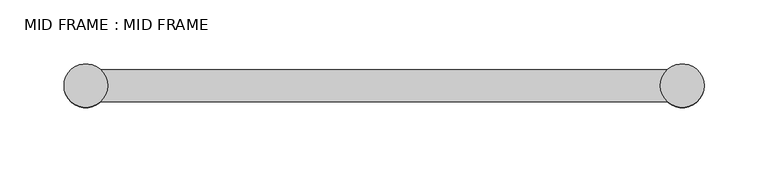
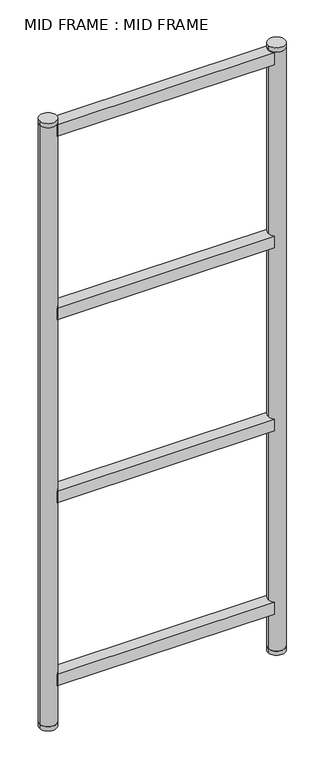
"""IFC4 building model written with IfcOpenShell, lengths in millimetres: furniture geometry, MID FRAME : MID FRAME."""

import ifcopenshell
import ifcopenshell.guid

model = None  # the IFC model being written
_history = None  # IfcOwnerHistory: only IFC2X3 demands one
_inside = {}  # id of a spatial element -> (the spatial element, [elements in it])
_under = {}  # id of a project, library or spatial element -> (it, [spatial elements below it])
_declared = {}  # id of a project -> (the project, [libraries it declares])
_typed = {}  # id of a type object -> (the type object, [elements of that type])
_made_of = {}  # id of a material, layer set ... -> (it, [elements and type objects made of it])


def new_model(schema):
    """Start an empty IFC model of exactly this schema.

    Asked for "IFC4X3", IfcOpenShell would pick the latest addendum, in which some entities
    have other attributes; the version numbers below select the first issue.
    IFC2X3 requires an IfcOwnerHistory on every rooted entity: one is made here for all.
    """
    global model, _history
    if schema == "IFC4X3":
        model = ifcopenshell.file(schema_version=(4, 3, 0, 0))
    else:
        model = ifcopenshell.file(schema=schema)
    _inside.clear()
    _under.clear()
    _declared.clear()
    _typed.clear()
    _made_of.clear()
    _history = None
    if model.schema == "IFC2X3":
        org = make("IfcOrganization", Name="unknown")
        user = make(
            "IfcPersonAndOrganization",
            ThePerson=make("IfcPerson", FamilyName="unknown"),
            TheOrganization=org,
        )
        app = make(
            "IfcApplication",
            ApplicationDeveloper=org,
            Version="unknown",
            ApplicationFullName="unknown",
            ApplicationIdentifier="unknown",
        )
        _history = make(
            "IfcOwnerHistory",
            OwningUser=user,
            OwningApplication=app,
            ChangeAction="ADDED",
            CreationDate=0,
        )
    return model


def make(cls, **values):
    """One entity of the class cls with the attributes given. An attribute that is None is left unset."""
    return model.create_entity(
        cls, **{name: value for name, value in values.items() if value is not None}
    )


def rooted(cls, **values):
    """An entity with a GlobalId (a new one), such as an element, a storey or a relation."""
    return make(cls, GlobalId=ifcopenshell.guid.new(), OwnerHistory=_history, **values)


def si_unit(unit_type, name, prefix=None):
    """IfcSIUnit, for example si_unit("LENGTHUNIT", "METRE", prefix="MILLI")."""
    return make("IfcSIUnit", UnitType=unit_type, Prefix=prefix, Name=name)


def assignment(units):
    """IfcUnitAssignment: the units of a project."""
    return None if units is None else make("IfcUnitAssignment", Units=units)


def point(xyz):
    """IfcCartesianPoint."""
    return None if xyz is None else make("IfcCartesianPoint", Coordinates=xyz)


def direction(xyz):
    """IfcDirection."""
    return None if xyz is None else make("IfcDirection", DirectionRatios=xyz)


def frame(location, z_axis=None, x_axis=None):
    """IfcAxis2Placement3D, a coordinate frame: its origin and axes. An axis left out is left unset."""
    return make(
        "IfcAxis2Placement3D",
        Location=point(location),
        Axis=direction(z_axis),
        RefDirection=direction(x_axis),
    )


def frame_2d(location, x_axis=None):
    """IfcAxis2Placement2D, a coordinate frame in the plane: its origin and x axis."""
    return make(
        "IfcAxis2Placement2D", Location=point(location), RefDirection=direction(x_axis)
    )


def origin():
    """The frame at (0, 0, 0) with its axes left unset."""
    return frame((0.0, 0.0, 0.0))


def origin_with_axes():
    """The frame at (0, 0, 0) with the z axis (0, 0, 1) and the x axis (1, 0, 0) written out."""
    return frame((0.0, 0.0, 0.0), z_axis=(0.0, 0.0, 1.0), x_axis=(1.0, 0.0, 0.0))


def place(relative_to, where):
    """IfcLocalPlacement: puts the frame where relative to a parent placement (None: the world)."""
    return make(
        "IfcLocalPlacement", PlacementRelTo=relative_to, RelativePlacement=where
    )


def context(
    kind, dimensions, precision=None, world=None, true_north=None, identifier=None
):
    """IfcGeometricRepresentationContext, for example the 3D "Model" context."""
    return make(
        "IfcGeometricRepresentationContext",
        ContextIdentifier=identifier,
        ContextType=kind,
        CoordinateSpaceDimension=dimensions,
        Precision=precision,
        WorldCoordinateSystem=world,
        TrueNorth=true_north,
    )


def project(units=None, contexts=None):
    """IfcProject with its units and contexts."""
    return rooted(
        "IfcProject",
        Name="project",
        RepresentationContexts=contexts,
        UnitsInContext=assignment(units),
    )


def spatial(cls, under=None, at=None, **own):
    """A site, building, storey or space (cls), placed at a placement, below another one or the project."""
    s = rooted(cls, ObjectPlacement=at, **own)
    if under is not None:
        _under.setdefault(under.id(), (under, []))[1].append(s)
    return s


def polyline(points):
    """IfcPolyline through the points."""
    return make("IfcPolyline", Points=[point(p) for p in points])


def circle_curve(where, radius):
    """IfcCircle in the frame where."""
    return make("IfcCircle", Position=where, Radius=radius)


def trimmed(basis, trim1, trim2, sense, master):
    """IfcTrimmedCurve: the piece of a basis curve between two trims."""
    return make(
        "IfcTrimmedCurve",
        BasisCurve=basis,
        Trim1=trim1,
        Trim2=trim2,
        SenseAgreement=sense,
        MasterRepresentation=master,
    )


def segment(curve, same_sense, transition):
    """IfcCompositeCurveSegment."""
    return make(
        "IfcCompositeCurveSegment",
        Transition=transition,
        SameSense=same_sense,
        ParentCurve=curve,
    )


def composite_curve(segments, self_intersect=None):
    """IfcCompositeCurve: segments joined end to end."""
    return make("IfcCompositeCurve", Segments=segments, SelfIntersect=self_intersect)


def outline(outer, holes=None, kind="AREA"):
    """IfcArbitraryClosedProfileDef: a profile drawn as a closed curve; with holes, ...WithVoids."""
    if holes is None:
        return make("IfcArbitraryClosedProfileDef", ProfileType=kind, OuterCurve=outer)
    return make(
        "IfcArbitraryProfileDefWithVoids",
        ProfileType=kind,
        OuterCurve=outer,
        InnerCurves=holes,
    )


def extrude(swept, where, along, depth):
    """IfcExtrudedAreaSolid: the profile swept, set in the frame where, extruded along a direction by depth."""
    return make(
        "IfcExtrudedAreaSolid",
        SweptArea=swept,
        Position=where,
        ExtrudedDirection=direction(along),
        Depth=depth,
    )


def shape(context_of_items, identifier, shape_type, items):
    """IfcShapeRepresentation: the items that make up one representation, for example the "Body"."""
    return make(
        "IfcShapeRepresentation",
        ContextOfItems=context_of_items,
        RepresentationIdentifier=identifier,
        RepresentationType=shape_type,
        Items=items,
    )


def source(mapping_origin, context_of_items, identifier, shape_type, items):
    """IfcRepresentationMap: a shape defined once, which mapped items show again and again."""
    return make(
        "IfcRepresentationMap",
        MappingOrigin=mapping_origin,
        MappedRepresentation=shape(context_of_items, identifier, shape_type, items),
    )


def transform(
    local_origin,
    x_axis=None,
    y_axis=None,
    z_axis=None,
    scale=None,
    scale2=None,
    scale3=None,
    uniform=True,
):
    """IfcCartesianTransformationOperator3D, or its non-uniform kind. x_axis, y_axis, z_axis: its Axis1, 2, 3."""
    if uniform:
        return make(
            "IfcCartesianTransformationOperator3D",
            Axis1=direction(x_axis),
            Axis2=direction(y_axis),
            LocalOrigin=point(local_origin),
            Scale=scale,
            Axis3=direction(z_axis),
        )
    return make(
        "IfcCartesianTransformationOperator3DnonUniform",
        Axis1=direction(x_axis),
        Axis2=direction(y_axis),
        LocalOrigin=point(local_origin),
        Scale=scale,
        Axis3=direction(z_axis),
        Scale2=scale2,
        Scale3=scale3,
    )


def mapped(mapping_source, mapping_target):
    """IfcMappedItem: shows the shape of a source again, moved by a transform."""
    return make(
        "IfcMappedItem", MappingSource=mapping_source, MappingTarget=mapping_target
    )


def made_of(thing, what):
    """Note that an element or type object is made of a material, layer set ...; save() writes the relation."""
    if what is not None:
        _made_of.setdefault(what.id(), (what, []))[1].append(thing)
    return thing


def element(
    cls,
    number,
    at=None,
    inside=None,
    cuts=None,
    type_object=None,
    material=None,
    context=None,
    identifier="Body",
    shape_type=None,
    held_by="IfcProductDefinitionShape",
    body=None,
    shapes=None,
    **own,
):
    """One element of the class cls, such as IfcWall. Its Tag is "e" and its number.

    at: its placement. inside: the storey or other place that contains it. cuts: it is an
    opening in that element (IfcRelVoidsElement). A single representation is given by context,
    identifier, shape_type and body (its items); several are given by shapes. held_by: the class
    of the entity that holds the representations. save() writes the other relations.
    """
    e = rooted(cls, Tag="e%d" % number, ObjectPlacement=at, **own)
    if body is not None:
        shapes = [shape(context, identifier, shape_type, body)]
    if shapes is not None:
        e.Representation = make(held_by, Representations=shapes)
    if inside is not None:
        _inside.setdefault(inside.id(), (inside, []))[1].append(e)
    if cuts is not None:
        rooted(
            "IfcRelVoidsElement", RelatingBuildingElement=cuts, RelatedOpeningElement=e
        )
    if type_object is not None:
        _typed.setdefault(type_object.id(), (type_object, []))[1].append(e)
    return made_of(e, material)


def aggregate(whole, parts):
    """IfcRelAggregates: a whole, such as a stair, and the parts it consists of."""
    return rooted("IfcRelAggregates", RelatingObject=whole, RelatedObjects=parts)


def save(model, path):
    """Write the relations noted so far, then the file.

    IfcRelAggregates (storeys below a building ...), IfcRelContainedInSpatialStructure (elements
    in a storey), IfcRelDefinesByType, IfcRelAssociatesMaterial and IfcRelDeclares: one each for
    every whole, place, type object, material and project.
    """
    for whole, parts in _under.values():
        aggregate(whole, parts)
    for where, things in _inside.values():
        rooted(
            "IfcRelContainedInSpatialStructure",
            RelatedElements=things,
            RelatingStructure=where,
        )
    for kind, things in _typed.values():
        rooted("IfcRelDefinesByType", RelatedObjects=things, RelatingType=kind)
    for what, things in _made_of.values():
        rooted("IfcRelAssociatesMaterial", RelatedObjects=things, RelatingMaterial=what)
    for by, libraries in _declared.values():
        rooted("IfcRelDeclares", RelatingContext=by, RelatedDefinitions=libraries)
    model.write(path)


def mid_frame_mid_frame_ec248e10(model_context):
    return source(origin(), model_context, "Body", "SweptSolid", [
        extrude(outline(composite_curve([segment(polyline([(221.4782814, -12.5), (-221.4782814, -12.5)]), True, "CONTINUOUS"), segment(trimmed(circle_curve(frame_2d((-233.0, 0.0)), 17.0), [point((-221.4782814, -12.5))], [point((-221.4782814, 12.5))], True, "CARTESIAN"), True, "CONTINUOUS"), segment(polyline([(-221.4782814, 12.5), (221.4782814, 12.5)]), True, "CONTINUOUS"), segment(trimmed(circle_curve(frame_2d((233.0, 0.0)), 17.0), [point((221.4782814, 12.5))], [point((221.4782814, -12.5))], True, "CARTESIAN"), True, "CONTINUOUS")], self_intersect=False)), frame((0.0, 0.0, 1274.0), z_axis=(0.0, 0.0, 1.0), x_axis=(1.0, 0.0, 0.0)), (0.0, 0.0, 1.0), 25.0),
        extrude(outline(composite_curve([segment(polyline([(221.4782814, -12.5), (-221.4782814, -12.5)]), True, "CONTINUOUS"), segment(trimmed(circle_curve(frame_2d((-233.0, 0.0)), 17.0), [point((-221.4782814, -12.5))], [point((-221.4782814, 12.5))], True, "CARTESIAN"), True, "CONTINUOUS"), segment(polyline([(-221.4782814, 12.5), (221.4782814, 12.5)]), True, "CONTINUOUS"), segment(trimmed(circle_curve(frame_2d((233.0, 0.0)), 17.0), [point((221.4782814, 12.5))], [point((221.4782814, -12.5))], True, "CARTESIAN"), True, "CONTINUOUS")], self_intersect=False)), frame((0.0, 0.0, 879.0), z_axis=(0.0, 0.0, 1.0), x_axis=(1.0, 0.0, 0.0)), (0.0, 0.0, 1.0), 25.0),
        extrude(outline(composite_curve([segment(polyline([(221.4782814, -12.5), (-221.4782814, -12.5)]), True, "CONTINUOUS"), segment(trimmed(circle_curve(frame_2d((-233.0, 0.0)), 17.0), [point((-221.4782814, -12.5))], [point((-221.4782814, 12.5))], True, "CARTESIAN"), True, "CONTINUOUS"), segment(polyline([(-221.4782814, 12.5), (221.4782814, 12.5)]), True, "CONTINUOUS"), segment(trimmed(circle_curve(frame_2d((233.0, 0.0)), 17.0), [point((221.4782814, 12.5))], [point((221.4782814, -12.5))], True, "CARTESIAN"), True, "CONTINUOUS")], self_intersect=False)), frame((0.0, 0.0, 484.0), z_axis=(0.0, 0.0, 1.0), x_axis=(1.0, 0.0, 0.0)), (0.0, 0.0, 1.0), 25.0),
        extrude(outline(composite_curve([segment(polyline([(221.4782814, -12.5), (-221.4782814, -12.5)]), True, "CONTINUOUS"), segment(trimmed(circle_curve(frame_2d((-233.0, 0.0)), 17.0), [point((-221.4782814, -12.5))], [point((-221.4782814, 12.5))], True, "CARTESIAN"), True, "CONTINUOUS"), segment(polyline([(-221.4782814, 12.5), (221.4782814, 12.5)]), True, "CONTINUOUS"), segment(trimmed(circle_curve(frame_2d((233.0, 0.0)), 17.0), [point((221.4782814, 12.5))], [point((221.4782814, -12.5))], True, "CARTESIAN"), True, "CONTINUOUS")], self_intersect=False)), frame((0.0, 0.0, 89.0), z_axis=(0.0, 0.0, 1.0), x_axis=(1.0, 0.0, 0.0)), (0.0, 0.0, 1.0), 25.0),
        extrude(outline(composite_curve([segment(trimmed(circle_curve(frame_2d((-233.0, 0.0)), 17.0), [point((-216.0, 0.0))], [point((-250.0, 0.0))], False, "CARTESIAN"), True, "CONTINUOUS"), segment(trimmed(circle_curve(frame_2d((-233.0, 0.0)), 17.0), [point((-250.0, 0.0))], [point((-216.0, 0.0))], False, "CARTESIAN"), True, "CONTINUOUS")], self_intersect=False)), frame((0.0, 0.0, 1301.0), z_axis=(0.0, 0.0, 1.0), x_axis=(1.0, 0.0, 0.0)), (0.0, 0.0, 1.0), 9.0),
        extrude(outline(composite_curve([segment(trimmed(circle_curve(frame_2d((-233.0, 0.0)), 17.0), [point((-216.0, 0.0))], [point((-250.0, 0.0))], False, "CARTESIAN"), True, "CONTINUOUS"), segment(trimmed(circle_curve(frame_2d((-233.0, 0.0)), 17.0), [point((-250.0, 0.0))], [point((-216.0, 0.0))], False, "CARTESIAN"), True, "CONTINUOUS")], self_intersect=False)), origin_with_axes(), (0.0, 0.0, 1.0), 9.0),
        extrude(outline(composite_curve([segment(trimmed(circle_curve(frame_2d((-233.0, 0.0)), 17.0), [point((-216.0, 0.0))], [point((-250.0, 0.0))], False, "CARTESIAN"), True, "CONTINUOUS"), segment(trimmed(circle_curve(frame_2d((-233.0, 0.0)), 17.0), [point((-250.0, 0.0))], [point((-216.0, 0.0))], False, "CARTESIAN"), True, "CONTINUOUS")], self_intersect=False)), frame((0.0, 0.0, 9.0), z_axis=(0.0, 0.0, 1.0), x_axis=(1.0, 0.0, 0.0)), (0.0, 0.0, 1.0), 1292.0),
        extrude(outline(composite_curve([segment(trimmed(circle_curve(frame_2d((233.0, 0.0)), 17.0), [point((216.0, 0.0))], [point((250.0, 0.0))], False, "CARTESIAN"), True, "CONTINUOUS"), segment(trimmed(circle_curve(frame_2d((233.0, 0.0)), 17.0), [point((250.0, 0.0))], [point((216.0, 0.0))], False, "CARTESIAN"), True, "CONTINUOUS")], self_intersect=False)), frame((0.0, 0.0, 1301.0), z_axis=(0.0, 0.0, 1.0), x_axis=(1.0, 0.0, 0.0)), (0.0, 0.0, 1.0), 9.0),
        extrude(outline(composite_curve([segment(trimmed(circle_curve(frame_2d((233.0, 0.0)), 17.0), [point((216.0, 0.0))], [point((250.0, 0.0))], False, "CARTESIAN"), True, "CONTINUOUS"), segment(trimmed(circle_curve(frame_2d((233.0, 0.0)), 17.0), [point((250.0, 0.0))], [point((216.0, 0.0))], False, "CARTESIAN"), True, "CONTINUOUS")], self_intersect=False)), origin_with_axes(), (0.0, 0.0, 1.0), 9.0),
        extrude(outline(composite_curve([segment(trimmed(circle_curve(frame_2d((233.0, 0.0)), 17.0), [point((216.0, 0.0))], [point((250.0, 0.0))], False, "CARTESIAN"), True, "CONTINUOUS"), segment(trimmed(circle_curve(frame_2d((233.0, 0.0)), 17.0), [point((250.0, 0.0))], [point((216.0, 0.0))], False, "CARTESIAN"), True, "CONTINUOUS")], self_intersect=False)), frame((0.0, 0.0, 9.0), z_axis=(0.0, 0.0, 1.0), x_axis=(1.0, 0.0, 0.0)), (0.0, 0.0, 1.0), 1292.0),
    ])


if __name__ == "__main__":
    model = new_model("IFC4")
    model_context = context("Model", 3, world=origin())
    ifc_project = project(units=[si_unit("LENGTHUNIT", "METRE", prefix="MILLI")], contexts=[model_context])
    site = spatial("IfcSite", under=ifc_project)
    building = spatial("IfcBuilding", under=site)
    placement = place(None, origin())
    mid_frame_mid_frame_shape = mid_frame_mid_frame_ec248e10(model_context)
    element("IfcFurniture", 1, ObjectType="MID FRAME : MID FRAME", at=placement, inside=building, context=model_context, shape_type="MappedRepresentation", body=[
        mapped(mid_frame_mid_frame_shape, transform((0.0, 0.0, 0.0), x_axis=(1.0, 0.0, 0.0), y_axis=(0.0, 1.0, 0.0), z_axis=(0.0, 0.0, 1.0))),
    ])
    save(model, "model.ifc")
